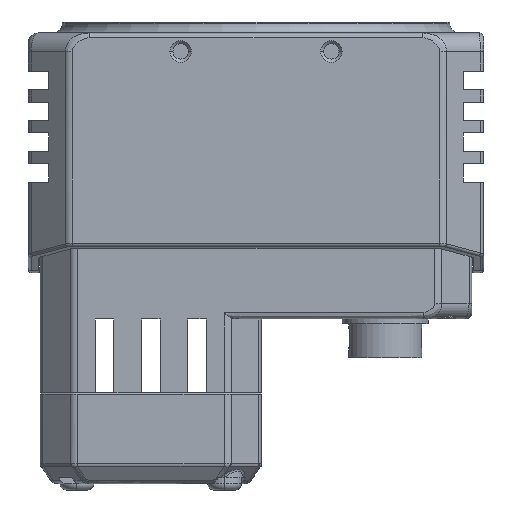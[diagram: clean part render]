
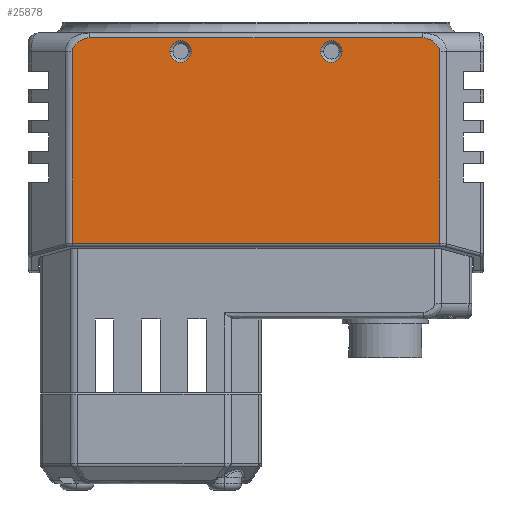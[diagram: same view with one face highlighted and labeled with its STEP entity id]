
A CAD part, left-side view. The second image highlights one B-rep face of the part: STEP entity #25878.
In plain terms, the highlighted planar face has unit normal (-1, 0, 0).
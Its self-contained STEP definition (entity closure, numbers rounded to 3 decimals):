
#1171=CARTESIAN_POINT('',(-37.,-27.059,
10.702));
#1172=CARTESIAN_POINT('',(-37.,-26.823,
10.705));
#1173=CARTESIAN_POINT('',(-37.,-26.277,
10.697));
#1174=CARTESIAN_POINT('',(-37.,-25.398,
10.701));
#1175=CARTESIAN_POINT('',(-37.,-24.39,
10.7));
#1176=CARTESIAN_POINT('',(-37.,-23.281,
10.7));
#1177=CARTESIAN_POINT('',(-37.,-22.04,
10.7));
#1178=CARTESIAN_POINT('',(-37.,-20.651,
10.7));
#1179=CARTESIAN_POINT('',(-37.,-19.11,
10.7));
#1180=CARTESIAN_POINT('',(-37.,-17.41,
10.7));
#1181=CARTESIAN_POINT('',(-37.,-15.533,
10.7));
#1182=CARTESIAN_POINT('',(-37.,-13.45,10.7));
#1183=CARTESIAN_POINT('',(-37.,-11.124,
10.7));
#1184=CARTESIAN_POINT('',(-37.,-8.51,10.7));
#1185=CARTESIAN_POINT('',(-37.,-5.589,10.7));
#1186=CARTESIAN_POINT('',(-37.,-2.449,10.7));
#1187=CARTESIAN_POINT('',(-37.,0.73,10.7));
#1188=CARTESIAN_POINT('',(-37.,3.764,10.7));
#1189=CARTESIAN_POINT('',(-37.,6.579,10.7));
#1190=CARTESIAN_POINT('',(-37.,9.175,10.7));
#1191=CARTESIAN_POINT('',(-37.,11.57,10.7));
#1192=CARTESIAN_POINT('',(-37.,13.774,10.7));
#1193=CARTESIAN_POINT('',(-37.,15.796,10.7));
#1194=CARTESIAN_POINT('',(-37.,17.647,10.7));
#1195=CARTESIAN_POINT('',(-37.,19.338,10.7));
#1196=CARTESIAN_POINT('',(-37.,20.875,10.7));
#1197=CARTESIAN_POINT('',(-37.,22.26,10.7));
#1198=CARTESIAN_POINT('',(-37.,23.497,10.7));
#1199=CARTESIAN_POINT('',(-37.,24.606,10.7));
#1200=CARTESIAN_POINT('',(-37.,25.619,10.701));
#1201=CARTESIAN_POINT('',(-37.,26.425,10.698));
#1202=CARTESIAN_POINT('',(-37.,26.899,10.702));
#1203=CARTESIAN_POINT('',(-37.,27.057,10.7));
#1218=CARTESIAN_POINT('',(-37.,-29.837,
8.5));
#1219=CARTESIAN_POINT('',(-37.,-29.845,
8.614));
#1220=CARTESIAN_POINT('',(-37.,-29.818,
8.849));
#1221=CARTESIAN_POINT('',(-37.,-29.557,
9.369));
#1222=CARTESIAN_POINT('',(-37.,-29.348,
9.614));
#1223=CARTESIAN_POINT('',(-37.,-28.928,
10.016));
#1224=CARTESIAN_POINT('',(-37.,-28.301,
10.405));
#1225=CARTESIAN_POINT('',(-37.,-27.667,
10.642));
#1226=CARTESIAN_POINT('',(-37.,-27.261,
10.699));
#1227=CARTESIAN_POINT('',(-37.,-27.059,
10.702));
#1696=DIRECTION('',(0.,1.,0.));
#1697=VECTOR('',#1696,59.675);
#1698=CARTESIAN_POINT('',(-37.,-29.837,
-22.695));
#1699=LINE('',#1698,#1697);
#1700=CARTESIAN_POINT('',(-37.,29.837,8.5));
#1701=CARTESIAN_POINT('',(-37.,29.846,8.616));
#1702=CARTESIAN_POINT('',(-37.,29.816,8.857));
#1703=CARTESIAN_POINT('',(-37.,29.543,9.393));
#1704=CARTESIAN_POINT('',(-37.,29.306,9.658));
#1705=CARTESIAN_POINT('',(-37.,28.89,10.042));
#1706=CARTESIAN_POINT('',(-37.,28.291,10.411));
#1707=CARTESIAN_POINT('',(-37.,27.625,10.653));
#1708=CARTESIAN_POINT('',(-37.,27.242,10.702));
#1709=CARTESIAN_POINT('',(-37.,27.057,10.7));
#1711=DIRECTION('',(0.,0.,-1.));
#1712=VECTOR('',#1711,31.195);
#1713=CARTESIAN_POINT('',(-37.,-29.837,
8.5));
#1714=LINE('',#1713,#1712);
#1722=DIRECTION('',(0.,0.,-1.));
#1723=VECTOR('',#1722,31.195);
#1724=CARTESIAN_POINT('',(-37.,29.837,8.5));
#1725=LINE('',#1724,#1723);
#1726=CARTESIAN_POINT('',(-37.,12.25,8.5));
#1727=DIRECTION('',(1.,0.,0.));
#1728=DIRECTION('',(0.,1.,0.));
#1729=AXIS2_PLACEMENT_3D('',#1726,#1727,#1728);
#1736=CARTESIAN_POINT('',(-37.,12.25,8.5));
#1737=DIRECTION('',(1.,0.,0.));
#1738=DIRECTION('',(0.,-1.,0.));
#1739=AXIS2_PLACEMENT_3D('',#1736,#1737,#1738);
#1772=CARTESIAN_POINT('',(-37.,-12.25,8.5));
#1773=DIRECTION('',(1.,0.,0.));
#1774=DIRECTION('',(0.,1.,0.));
#1775=AXIS2_PLACEMENT_3D('',#1772,#1773,#1774);
#1782=CARTESIAN_POINT('',(-37.,-12.25,8.5));
#1783=DIRECTION('',(1.,0.,0.));
#1784=DIRECTION('',(0.,-1.,0.));
#1785=AXIS2_PLACEMENT_3D('',#1782,#1783,#1784);
#20744=CARTESIAN_POINT('',(-37.,-29.837,-22.695));
#20745=VERTEX_POINT('',#20744);
#20747=CARTESIAN_POINT('',(-37.,29.837,
-22.695));
#20748=VERTEX_POINT('',#20747);
#20884=CARTESIAN_POINT('',(-37.,-29.837,
8.5));
#20885=VERTEX_POINT('',#20884);
#20888=VERTEX_POINT('',#1700);
#20889=VERTEX_POINT('',#1709);
#21145=VERTEX_POINT('',#1171);
#21326=CARTESIAN_POINT('',(-37.,14.,8.5));
#21328=VERTEX_POINT('',#21326);
#21331=CARTESIAN_POINT('',(-37.,10.5,8.5));
#21333=VERTEX_POINT('',#21331);
#21338=CARTESIAN_POINT('',(-37.,-10.5,8.5));
#21340=VERTEX_POINT('',#21338);
#21343=CARTESIAN_POINT('',(-37.,-14.,8.5));
#21345=VERTEX_POINT('',#21343);
#25852=CARTESIAN_POINT('',(-37.,0.,-5.997));
#25853=DIRECTION('',(1.,0.,0.));
#25854=DIRECTION('',(0.,-1.,0.));
#25855=AXIS2_PLACEMENT_3D('',#25852,#25853,#25854);
#25856=PLANE('',#25855);
#25857=ORIENTED_EDGE('',*,*,#23615,.T.);
#25859=ORIENTED_EDGE('',*,*,#25858,.F.);
#25860=ORIENTED_EDGE('',*,*,#24261,.T.);
#25861=ORIENTED_EDGE('',*,*,#24412,.F.);
#25862=ORIENTED_EDGE('',*,*,#24543,.F.);
#25863=ORIENTED_EDGE('',*,*,#25845,.T.);
#25864=EDGE_LOOP('',(#25857,#25859,#25860,#25861,#25862,#25863));
#25865=FACE_OUTER_BOUND('',#25864,.F.);
#25867=ORIENTED_EDGE('',*,*,#25866,.F.);
#25869=ORIENTED_EDGE('',*,*,#25868,.F.);
#25870=EDGE_LOOP('',(#25867,#25869));
#25871=FACE_BOUND('',#25870,.F.);
#25873=ORIENTED_EDGE('',*,*,#25872,.F.);
#25875=ORIENTED_EDGE('',*,*,#25874,.F.);
#25876=EDGE_LOOP('',(#25873,#25875));
#25877=FACE_BOUND('',#25876,.F.);
#25878=ADVANCED_FACE('',(#25865,#25871,#25877),#25856,.F.);
#1204=B_SPLINE_CURVE_WITH_KNOTS('',3,(#1171,#1172,#1173,#1174,#1175,#1176,#1177,
#1178,#1179,#1180,#1181,#1182,#1183,#1184,#1185,#1186,#1187,#1188,#1189,#1190,
#1191,#1192,#1193,#1194,#1195,#1196,#1197,#1198,#1199,#1200,#1201,#1202,#1203),
.UNSPECIFIED.,.F.,.F.,(4,1,1,1,1,1,1,1,1,1,1,1,1,1,1,1,1,1,1,1,1,1,1,1,1,1,1,1,
1,1,4),(0.,0.013,0.03,0.049,
0.069,0.092,0.117,0.146,
0.177,0.212,0.25,0.293,
0.341,0.395,0.455,0.515,
0.571,0.623,0.671,0.715,
0.756,0.793,0.827,0.858,
0.887,0.912,0.935,0.955,
0.974,0.991,1.),.UNSPECIFIED.);
#1228=B_SPLINE_CURVE_WITH_KNOTS('',3,(#1218,#1219,#1220,#1221,#1222,#1223,#1224,
#1225,#1226,#1227),.UNSPECIFIED.,.F.,.F.,(4,1,1,1,1,1,1,4),(0.,
0.143,0.286,0.429,0.571,
0.714,0.857,1.),.UNSPECIFIED.);
#1710=B_SPLINE_CURVE_WITH_KNOTS('',3,(#1700,#1701,#1702,#1703,#1704,#1705,#1706,
#1707,#1708,#1709),.UNSPECIFIED.,.F.,.F.,(4,1,1,1,1,1,1,4),(0.,
0.143,0.286,0.429,0.571,
0.714,0.857,1.),.UNSPECIFIED.);
#1730=CIRCLE('',#1729,1.75);
#1740=CIRCLE('',#1739,1.75);
#1776=CIRCLE('',#1775,1.75);
#1786=CIRCLE('',#1785,1.75);
#23615=EDGE_CURVE('',#20745,#20748,#1699,.T.);
#24261=EDGE_CURVE('',#20888,#20889,#1710,.T.);
#24412=EDGE_CURVE('',#21145,#20889,#1204,.T.);
#24543=EDGE_CURVE('',#20885,#21145,#1228,.T.);
#25845=EDGE_CURVE('',#20885,#20745,#1714,.T.);
#25858=EDGE_CURVE('',#20888,#20748,#1725,.T.);
#25866=EDGE_CURVE('',#21328,#21333,#1730,.T.);
#25868=EDGE_CURVE('',#21333,#21328,#1740,.T.);
#25872=EDGE_CURVE('',#21340,#21345,#1776,.T.);
#25874=EDGE_CURVE('',#21345,#21340,#1786,.T.);
